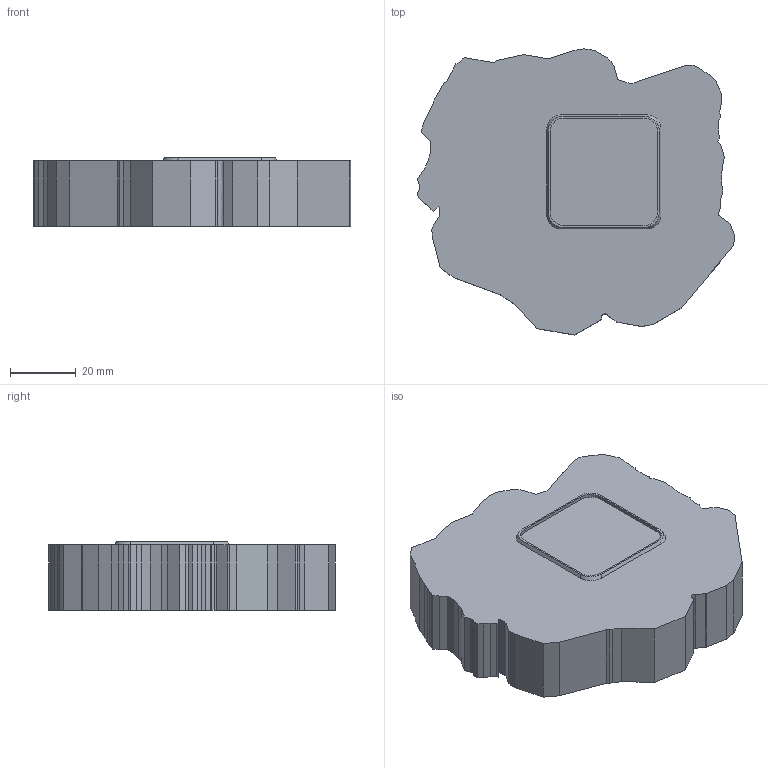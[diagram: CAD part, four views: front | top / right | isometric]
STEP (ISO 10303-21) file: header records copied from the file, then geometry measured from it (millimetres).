
FILE_DESCRIPTION(('STEP AP203'),'1');
FILE_NAME('Base Raiser.step','2023-03-09T07:28:13',(' '),(' '),'Spatial InterOp 3D',' ',' ');
FILE_SCHEMA(('CONFIG_CONTROL_DESIGN'));
Length unit declared in the file: millimetre
Products named in the file (1): 1
Bounding box: 96.81 x 87.26 x 21 mm (x, y, z)
Volume: 131437.7 mm3; surface area: 19862.6 mm2
Topology: 1 solids, 1 shells, 123 faces, 357 edges, 238 vertices
Faces by surface type: plane 112, extrusion 7, cylinder 4
Entity records: 4072 total; most frequent: CARTESIAN_POINT 761, ORIENTED_EDGE 714, DIRECTION 620, EDGE_CURVE 357, VECTOR 342, LINE 335, VERTEX_POINT 238, AXIS2_PLACEMENT_3D 139
